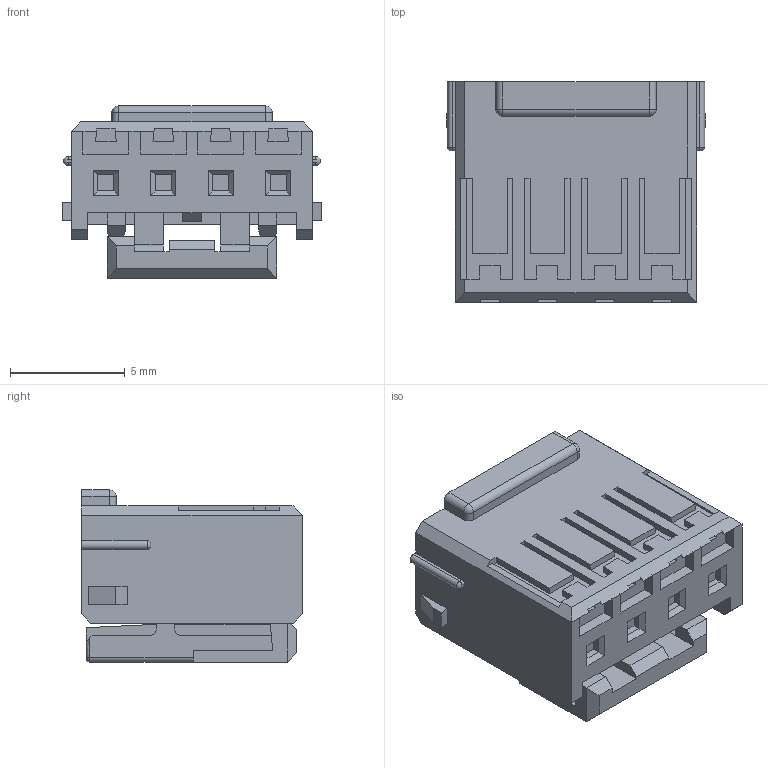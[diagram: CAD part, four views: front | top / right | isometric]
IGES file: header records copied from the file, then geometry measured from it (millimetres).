
Start section:  PTC IGES file: 511630400.igs
Global section: file name: 511630400.igs; native system: Creo Parametric by Parametric Technology Corporation; preprocessor: 2011490; author: me; organization: Unknown; date: 20160122.123005; units: millimetre
Bounding box: 11.3 x 9.6 x 7.5 mm (x, y, z)
Volume: 470.5 mm3; surface area: 692.8 mm2
Topology: 1 solids, 1 shells, 346 faces, 909 edges, 584 vertices
Faces by surface type: bspline 313, revolution 33
